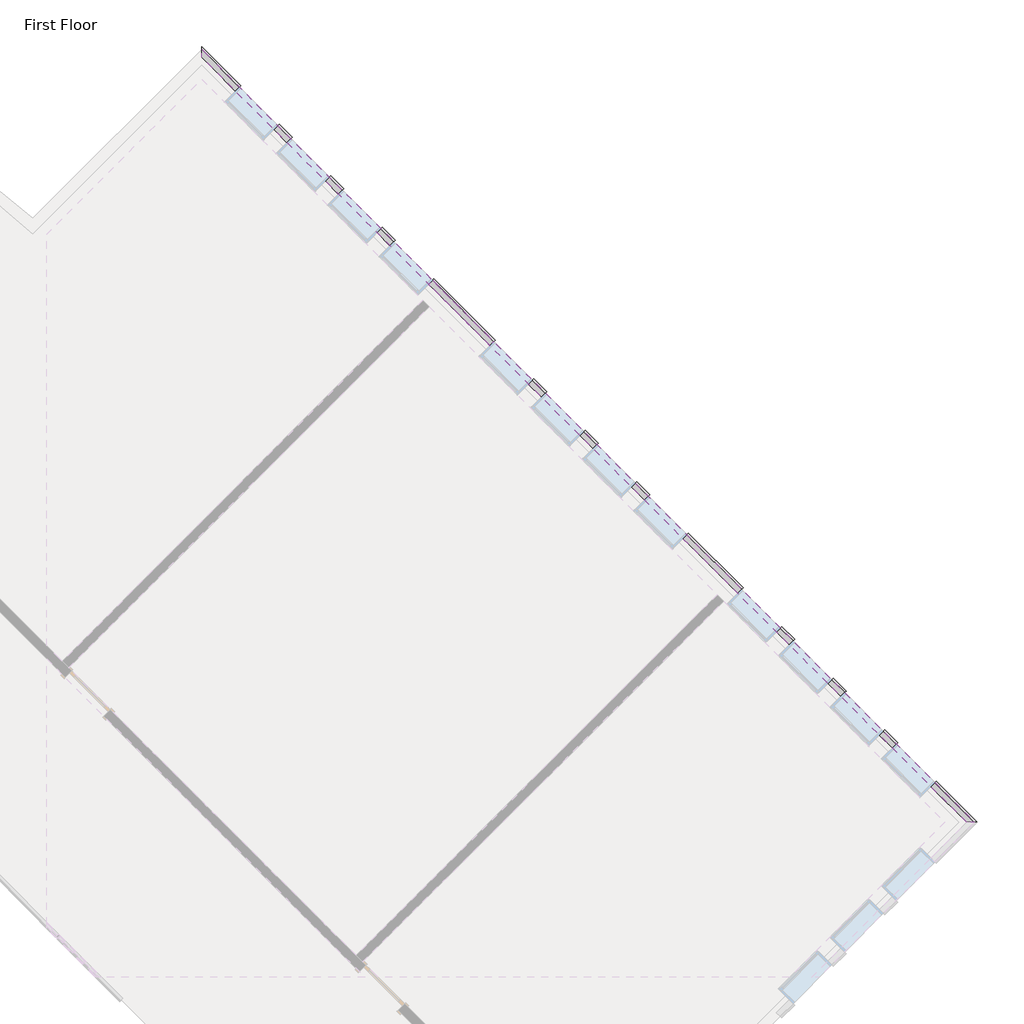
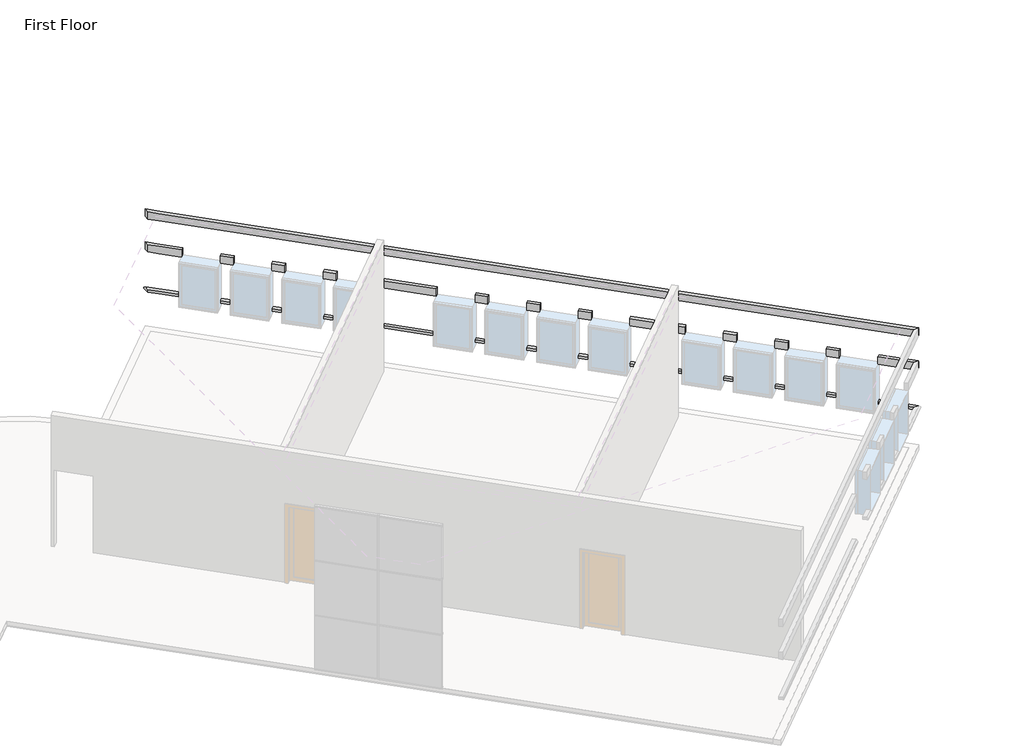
# One storey, part 7 of 7: 3 proxies.
"""IFC4 building model written with IfcOpenShell, lengths in millimetres."""

from ifc_helpers import new_model, si_unit, origin, place, context, project, spatial, faceted_brep, element, save

model = new_model("IFC4")

# Units and contexts
model_context = context("Model", 3, world=origin())
ifc_project = project(units=[si_unit("LENGTHUNIT", "METRE", prefix="MILLI")], contexts=[model_context])

# Site, building, storey
site = spatial("IfcSite", under=ifc_project)
building = spatial("IfcBuilding", under=site)
storey = spatial("IfcBuildingStorey", under=building, Name="First Floor", Elevation=0.0)

# Proxies
placement = place(None, origin())
element("IfcBuildingElementProxy", 1, Name="Wall Sweeps", at=placement, inside=storey, context=model_context, shape_type="Brep", body=[
    faceted_brep([(5753.0175119, 11443.3655905, 1085.85), (5753.0175119, 11573.5793042, 1085.85), (5753.0175119, 11622.9707129, 1041.4), (5753.0175119, 11622.9707129, 1016.0), (5753.0175119, 11443.3655905, 1016.0), (6317.415551, 10878.9675514, 1085.85), (6317.415551, 10878.9675514, 1016.0), (6382.5224079, 10944.0744083, 1016.0), (6407.2181122, 10968.7701126, 1016.0), (6407.2181122, 10968.7701126, 1041.4), (6382.5224079, 10944.0744083, 1085.85), (5937.1127624, 11259.27034, 1085.85), (5937.1127624, 11259.27034, 1016.0)], [[[0, 1, 2, 3, 4]], [[5, 6, 7, 8, 9, 10]], [[1, 0, 11, 5, 10]], [[2, 1, 10, 9]], [[3, 2, 9, 8]], [[4, 3, 8, 7, 6, 12]], [[0, 4, 12, 6, 5, 11]]]),
    faceted_brep([(6963.9939917, 10232.3891107, 1085.85), (7029.1008486, 10297.4959676, 1085.85), (7053.7965529, 10322.1916719, 1041.4), (7053.7965529, 10322.1916719, 1016.0), (7029.1008486, 10297.4959676, 1016.0), (6963.9939917, 10232.3891107, 1016.0), (7179.5201386, 10016.8629638, 1085.85), (7179.5201386, 10016.8629638, 1016.0), (7244.6269955, 10081.9698207, 1016.0), (7269.3226998, 10106.665525, 1016.0), (7269.3226998, 10106.665525, 1041.4), (7244.6269955, 10081.9698207, 1085.85)], [[[0, 1, 2, 3, 4, 5]], [[6, 7, 8, 9, 10, 11]], [[1, 0, 6, 11]], [[2, 1, 11, 10]], [[3, 2, 10, 9]], [[5, 4, 3, 9, 8, 7]], [[0, 5, 7, 6]]]),
    faceted_brep([(7826.0985793, 9370.2845231, 1085.85), (7891.2054362, 9435.39138, 1085.85), (7915.9011405, 9460.0870843, 1041.4), (7915.9011405, 9460.0870843, 1016.0), (7891.2054362, 9435.39138, 1016.0), (7826.0985793, 9370.2845231, 1016.0), (8041.6247262, 9154.7583762, 1085.85), (8041.6247262, 9154.7583762, 1016.0), (8106.7315831, 9219.8652331, 1016.0), (8131.4272874, 9244.5609374, 1016.0), (8131.4272874, 9244.5609374, 1041.4), (8106.7315831, 9219.8652331, 1085.85)], [[[0, 1, 2, 3, 4, 5]], [[6, 7, 8, 9, 10, 11]], [[1, 0, 6, 11]], [[2, 1, 11, 10]], [[3, 2, 10, 9]], [[5, 4, 3, 9, 8, 7]], [[0, 5, 7, 6]]]),
    faceted_brep([(8688.2031669, 8508.1799355, 1085.85), (8753.3100238, 8573.2867923, 1085.85), (8778.0057282, 8597.9824967, 1041.4), (8778.0057282, 8597.9824967, 1016.0), (8753.3100238, 8573.2867923, 1016.0), (8688.2031669, 8508.1799355, 1016.0), (8903.7293139, 8292.6537886, 1085.85), (8903.7293139, 8292.6537886, 1016.0), (8968.8361707, 8357.7606454, 1016.0), (8993.5318751, 8382.4563498, 1016.0), (8993.5318751, 8382.4563498, 1041.4), (8968.8361707, 8357.7606454, 1085.85)], [[[0, 1, 2, 3, 4, 5]], [[6, 7, 8, 9, 10, 11]], [[1, 0, 6, 11]], [[2, 1, 11, 10]], [[3, 2, 10, 9]], [[5, 4, 3, 9, 8, 7]], [[0, 5, 7, 6]]]),
    faceted_brep([(9550.3077546, 7646.0753478, 1085.85), (9615.4146114, 7711.1822047, 1085.85), (9640.1103158, 7735.877909, 1041.4), (9640.1103158, 7735.877909, 1016.0), (9615.4146114, 7711.1822047, 1016.0), (9550.3077546, 7646.0753478, 1016.0), (10574.7639411, 6621.6191613, 1085.85), (10574.7639411, 6621.6191613, 1016.0), (10639.870798, 6686.7260182, 1016.0), (10664.5665023, 6711.4217225, 1016.0), (10664.5665023, 6711.4217225, 1041.4), (10639.870798, 6686.7260182, 1085.85)], [[[0, 1, 2, 3, 4, 5]], [[6, 7, 8, 9, 10, 11]], [[1, 0, 6, 11]], [[2, 1, 11, 10]], [[3, 2, 10, 9]], [[5, 4, 3, 9, 8, 7]], [[0, 5, 7, 6]]]),
    faceted_brep([(11221.3423818, 5975.0407206, 1085.85), (11286.4492387, 6040.1475775, 1085.85), (11311.144943, 6064.8432818, 1041.4), (11311.144943, 6064.8432818, 1016.0), (11286.4492387, 6040.1475775, 1016.0), (11221.3423818, 5975.0407206, 1016.0), (11436.8685287, 5759.5145737, 1085.85), (11436.8685287, 5759.5145737, 1016.0), (11501.9753856, 5824.6214306, 1016.0), (11526.6710899, 5849.3171349, 1016.0), (11526.6710899, 5849.3171349, 1041.4), (11501.9753856, 5824.6214306, 1085.85)], [[[0, 1, 2, 3, 4, 5]], [[6, 7, 8, 9, 10, 11]], [[1, 0, 6, 11]], [[2, 1, 11, 10]], [[3, 2, 10, 9]], [[5, 4, 3, 9, 8, 7]], [[0, 5, 7, 6]]]),
    faceted_brep([(12083.4469694, 5112.936133, 1085.85), (12148.5538263, 5178.0429899, 1085.85), (12173.2495306, 5202.7386942, 1041.4), (12173.2495306, 5202.7386942, 1016.0), (12148.5538263, 5178.0429899, 1016.0), (12083.4469694, 5112.936133, 1016.0), (12298.9731163, 4897.4099861, 1085.85), (12298.9731163, 4897.4099861, 1016.0), (12364.0799732, 4962.516843, 1016.0), (12388.7756775, 4987.2125473, 1016.0), (12388.7756775, 4987.2125473, 1041.4), (12364.0799732, 4962.516843, 1085.85)], [[[0, 1, 2, 3, 4, 5]], [[6, 7, 8, 9, 10, 11]], [[1, 0, 6, 11]], [[2, 1, 11, 10]], [[3, 2, 10, 9]], [[5, 4, 3, 9, 8, 7]], [[0, 5, 7, 6]]]),
    faceted_brep([(12945.551557, 4250.8315454, 1085.85), (13010.6584139, 4315.9384023, 1085.85), (13035.3541182, 4340.6341066, 1041.4), (13035.3541182, 4340.6341066, 1016.0), (13010.6584139, 4315.9384023, 1016.0), (12945.551557, 4250.8315454, 1016.0), (13161.0777039, 4035.3053985, 1085.85), (13161.0777039, 4035.3053985, 1016.0), (13226.1845608, 4100.4122553, 1016.0), (13250.8802652, 4125.1079597, 1016.0), (13250.8802652, 4125.1079597, 1041.4), (13226.1845608, 4100.4122553, 1085.85)], [[[0, 1, 2, 3, 4, 5]], [[6, 7, 8, 9, 10, 11]], [[1, 0, 6, 11]], [[2, 1, 11, 10]], [[3, 2, 10, 9]], [[5, 4, 3, 9, 8, 7]], [[0, 5, 7, 6]]]),
    faceted_brep([(13807.6561447, 3388.7269578, 1085.85), (13872.7630015, 3453.8338146, 1085.85), (13897.4587059, 3478.529519, 1041.4), (13897.4587059, 3478.529519, 1016.0), (13872.7630015, 3453.8338146, 1016.0), (13807.6561447, 3388.7269578, 1016.0), (14723.1708449, 2473.2122576, 1085.85), (14723.1708449, 2473.2122576, 1016.0), (14788.2777017, 2538.3191144, 1016.0), (14812.9734061, 2563.0148188, 1016.0), (14812.9734061, 2563.0148188, 1041.4), (14788.2777017, 2538.3191144, 1085.85)], [[[0, 1, 2, 3, 4, 5]], [[6, 7, 8, 9, 10, 11]], [[1, 0, 6, 11]], [[2, 1, 11, 10]], [[3, 2, 10, 9]], [[5, 4, 3, 9, 8, 7]], [[0, 5, 7, 6]]]),
    faceted_brep([(15369.7492856, 1826.6338168, 1085.85), (15434.8561424, 1891.7406737, 1085.85), (15459.5518468, 1916.4363781, 1041.4), (15459.5518468, 1916.4363781, 1016.0), (15434.8561424, 1891.7406737, 1016.0), (15369.7492856, 1826.6338168, 1016.0), (15585.2754325, 1611.1076699, 1085.85), (15585.2754325, 1611.1076699, 1016.0), (15650.3822894, 1676.2145268, 1016.0), (15675.0779937, 1700.9102311, 1016.0), (15675.0779937, 1700.9102311, 1041.4), (15650.3822894, 1676.2145268, 1085.85)], [[[0, 1, 2, 3, 4, 5]], [[6, 7, 8, 9, 10, 11]], [[1, 0, 6, 11]], [[2, 1, 11, 10]], [[3, 2, 10, 9]], [[5, 4, 3, 9, 8, 7]], [[0, 5, 7, 6]]]),
    faceted_brep([(16231.8538732, 964.5292292, 1085.85), (16296.9607301, 1029.6360861, 1085.85), (16321.6564344, 1054.3317904, 1041.4), (16321.6564344, 1054.3317904, 1016.0), (16296.9607301, 1029.6360861, 1016.0), (16231.8538732, 964.5292292, 1016.0), (16447.3800201, 749.0030823, 1085.85), (16447.3800201, 749.0030823, 1016.0), (16512.486877, 814.1099392, 1016.0), (16537.1825813, 838.8056435, 1016.0), (16537.1825813, 838.8056435, 1041.4), (16512.486877, 814.1099392, 1085.85)], [[[0, 1, 2, 3, 4, 5]], [[6, 7, 8, 9, 10, 11]], [[1, 0, 6, 11]], [[2, 1, 11, 10]], [[3, 2, 10, 9]], [[5, 4, 3, 9, 8, 7]], [[0, 5, 7, 6]]]),
    faceted_brep([(17093.9584608, 102.4246416, 1085.85), (17159.0653177, 167.5314985, 1085.85), (17183.761022, 192.2272028, 1041.4), (17183.761022, 192.2272028, 1016.0), (17159.0653177, 167.5314985, 1016.0), (17093.9584608, 102.4246416, 1016.0), (17309.4846077, -113.1015053, 1085.85), (17309.4846077, -113.1015053, 1016.0), (17374.5914646, -47.9946484, 1016.0), (17399.2871689, -23.2989441, 1016.0), (17399.2871689, -23.2989441, 1041.4), (17374.5914646, -47.9946484, 1085.85)], [[[0, 1, 2, 3, 4, 5]], [[6, 7, 8, 9, 10, 11]], [[1, 0, 6, 11]], [[2, 1, 11, 10]], [[3, 2, 10, 9]], [[5, 4, 3, 9, 8, 7]], [[0, 5, 7, 6]]]),
    faceted_brep([(17956.0630484, -759.679946, 1085.85), (18021.1699053, -694.5730891, 1085.85), (18045.8656096, -669.8773848, 1041.4), (18045.8656096, -669.8773848, 1016.0), (18021.1699053, -694.5730891, 1016.0), (17956.0630484, -759.679946, 1016.0), (18554.3726125, -1357.9895101, 1085.85), (18554.3726125, -1357.9895101, 1016.0), (18733.9777349, -1357.9895101, 1016.0), (18733.9777349, -1357.9895101, 1041.4), (18684.5863263, -1357.9895101, 1085.85)], [[[0, 1, 2, 3, 4, 5]], [[6, 7, 8, 9, 10]], [[1, 0, 6, 10]], [[2, 1, 10, 9]], [[3, 2, 9, 8]], [[5, 4, 3, 8, 7]], [[0, 5, 7, 6]]]),
])
element("IfcBuildingElementProxy", 2, Name="Wall Sweeps", at=placement, inside=storey, context=model_context, shape_type="Brep", body=[
    faceted_brep([(5753.0175119, 11573.5793042, 2336.8), (5753.0175119, 11573.5793042, 2133.6), (5753.0175119, 11443.3655905, 2133.6), (5753.0175119, 11443.3655905, 2336.8), (6382.5224079, 10944.0744083, 2336.8), (6317.415551, 10878.9675514, 2336.8), (6317.415551, 10878.9675514, 2133.6), (6382.5224079, 10944.0744083, 2133.6), (6002.2196193, 11324.3771969, 2336.8), (6002.2196193, 11324.3771969, 2133.6), (5937.1127624, 11259.27034, 2133.6), (5937.1127624, 11259.27034, 2336.8)], [[[0, 1, 2, 3]], [[4, 5, 6, 7]], [[1, 0, 8, 4, 7, 9]], [[2, 1, 9, 7, 6, 10]], [[3, 2, 10, 6, 5, 11]], [[0, 3, 11, 5, 4, 8]]]),
    faceted_brep([(7029.1008486, 10297.4959676, 2336.8), (7029.1008486, 10297.4959676, 2133.6), (6963.9939917, 10232.3891107, 2133.6), (6963.9939917, 10232.3891107, 2336.8), (7244.6269955, 10081.9698207, 2336.8), (7179.5201386, 10016.8629638, 2336.8), (7179.5201386, 10016.8629638, 2133.6), (7244.6269955, 10081.9698207, 2133.6)], [[[0, 1, 2, 3]], [[4, 5, 6, 7]], [[1, 0, 4, 7]], [[2, 1, 7, 6]], [[3, 2, 6, 5]], [[0, 3, 5, 4]]]),
    faceted_brep([(7891.2054362, 9435.39138, 2336.8), (7891.2054362, 9435.39138, 2133.6), (7826.0985793, 9370.2845231, 2133.6), (7826.0985793, 9370.2845231, 2336.8), (8106.7315831, 9219.8652331, 2336.8), (8041.6247262, 9154.7583762, 2336.8), (8041.6247262, 9154.7583762, 2133.6), (8106.7315831, 9219.8652331, 2133.6)], [[[0, 1, 2, 3]], [[4, 5, 6, 7]], [[1, 0, 4, 7]], [[2, 1, 7, 6]], [[3, 2, 6, 5]], [[0, 3, 5, 4]]]),
    faceted_brep([(8753.3100238, 8573.2867923, 2336.8), (8753.3100238, 8573.2867923, 2133.6), (8688.2031669, 8508.1799355, 2133.6), (8688.2031669, 8508.1799355, 2336.8), (8968.8361707, 8357.7606454, 2336.8), (8903.7293139, 8292.6537886, 2336.8), (8903.7293139, 8292.6537886, 2133.6), (8968.8361707, 8357.7606454, 2133.6)], [[[0, 1, 2, 3]], [[4, 5, 6, 7]], [[1, 0, 4, 7]], [[2, 1, 7, 6]], [[3, 2, 6, 5]], [[0, 3, 5, 4]]]),
    faceted_brep([(9615.4146114, 7711.1822047, 2336.8), (9615.4146114, 7711.1822047, 2133.6), (9550.3077546, 7646.0753478, 2133.6), (9550.3077546, 7646.0753478, 2336.8), (10639.870798, 6686.7260182, 2336.8), (10574.7639411, 6621.6191613, 2336.8), (10574.7639411, 6621.6191613, 2133.6), (10639.870798, 6686.7260182, 2133.6)], [[[0, 1, 2, 3]], [[4, 5, 6, 7]], [[1, 0, 4, 7]], [[2, 1, 7, 6]], [[3, 2, 6, 5]], [[0, 3, 5, 4]]]),
    faceted_brep([(11286.4492387, 6040.1475775, 2336.8), (11286.4492387, 6040.1475775, 2133.6), (11221.3423818, 5975.0407206, 2133.6), (11221.3423818, 5975.0407206, 2336.8), (11501.9753856, 5824.6214306, 2336.8), (11436.8685287, 5759.5145737, 2336.8), (11436.8685287, 5759.5145737, 2133.6), (11501.9753856, 5824.6214306, 2133.6)], [[[0, 1, 2, 3]], [[4, 5, 6, 7]], [[1, 0, 4, 7]], [[2, 1, 7, 6]], [[3, 2, 6, 5]], [[0, 3, 5, 4]]]),
    faceted_brep([(12148.5538263, 5178.0429899, 2336.8), (12148.5538263, 5178.0429899, 2133.6), (12083.4469694, 5112.936133, 2133.6), (12083.4469694, 5112.936133, 2336.8), (12364.0799732, 4962.516843, 2336.8), (12298.9731163, 4897.4099861, 2336.8), (12298.9731163, 4897.4099861, 2133.6), (12364.0799732, 4962.516843, 2133.6)], [[[0, 1, 2, 3]], [[4, 5, 6, 7]], [[1, 0, 4, 7]], [[2, 1, 7, 6]], [[3, 2, 6, 5]], [[0, 3, 5, 4]]]),
    faceted_brep([(13010.6584139, 4315.9384023, 2336.8), (13010.6584139, 4315.9384023, 2133.6), (12945.551557, 4250.8315454, 2133.6), (12945.551557, 4250.8315454, 2336.8), (13226.1845608, 4100.4122553, 2336.8), (13161.0777039, 4035.3053985, 2336.8), (13161.0777039, 4035.3053985, 2133.6), (13226.1845608, 4100.4122553, 2133.6)], [[[0, 1, 2, 3]], [[4, 5, 6, 7]], [[1, 0, 4, 7]], [[2, 1, 7, 6]], [[3, 2, 6, 5]], [[0, 3, 5, 4]]]),
    faceted_brep([(13872.7630015, 3453.8338146, 2336.8), (13872.7630015, 3453.8338146, 2133.6), (13807.6561447, 3388.7269578, 2133.6), (13807.6561447, 3388.7269578, 2336.8), (14788.2777017, 2538.3191144, 2336.8), (14723.1708449, 2473.2122576, 2336.8), (14723.1708449, 2473.2122576, 2133.6), (14788.2777017, 2538.3191144, 2133.6)], [[[0, 1, 2, 3]], [[4, 5, 6, 7]], [[1, 0, 4, 7]], [[2, 1, 7, 6]], [[3, 2, 6, 5]], [[0, 3, 5, 4]]]),
    faceted_brep([(15434.8561424, 1891.7406737, 2336.8), (15434.8561424, 1891.7406737, 2133.6), (15369.7492856, 1826.6338168, 2133.6), (15369.7492856, 1826.6338168, 2336.8), (15650.3822894, 1676.2145268, 2336.8), (15585.2754325, 1611.1076699, 2336.8), (15585.2754325, 1611.1076699, 2133.6), (15650.3822894, 1676.2145268, 2133.6)], [[[0, 1, 2, 3]], [[4, 5, 6, 7]], [[1, 0, 4, 7]], [[2, 1, 7, 6]], [[3, 2, 6, 5]], [[0, 3, 5, 4]]]),
    faceted_brep([(16296.9607301, 1029.6360861, 2336.8), (16296.9607301, 1029.6360861, 2133.6), (16231.8538732, 964.5292292, 2133.6), (16231.8538732, 964.5292292, 2336.8), (16512.486877, 814.1099392, 2336.8), (16447.3800201, 749.0030823, 2336.8), (16447.3800201, 749.0030823, 2133.6), (16512.486877, 814.1099392, 2133.6)], [[[0, 1, 2, 3]], [[4, 5, 6, 7]], [[1, 0, 4, 7]], [[2, 1, 7, 6]], [[3, 2, 6, 5]], [[0, 3, 5, 4]]]),
    faceted_brep([(17159.0653177, 167.5314985, 2336.8), (17159.0653177, 167.5314985, 2133.6), (17093.9584608, 102.4246416, 2133.6), (17093.9584608, 102.4246416, 2336.8), (17374.5914646, -47.9946484, 2336.8), (17309.4846077, -113.1015053, 2336.8), (17309.4846077, -113.1015053, 2133.6), (17374.5914646, -47.9946484, 2133.6)], [[[0, 1, 2, 3]], [[4, 5, 6, 7]], [[1, 0, 4, 7]], [[2, 1, 7, 6]], [[3, 2, 6, 5]], [[0, 3, 5, 4]]]),
    faceted_brep([(18021.1699053, -694.5730891, 2336.8), (18021.1699053, -694.5730891, 2133.6), (17956.0630484, -759.679946, 2133.6), (17956.0630484, -759.679946, 2336.8), (18684.5863263, -1357.9895101, 2336.8), (18554.3726125, -1357.9895101, 2336.8), (18554.3726125, -1357.9895101, 2133.6), (18684.5863263, -1357.9895101, 2133.6)], [[[0, 1, 2, 3]], [[4, 5, 6, 7]], [[1, 0, 4, 7]], [[2, 1, 7, 6]], [[3, 2, 6, 5]], [[0, 3, 5, 4]]]),
])
element("IfcBuildingElementProxy", 3, Name="Wall Sweeps", at=placement, inside=storey, context=model_context, shape_type="Brep", body=[
    faceted_brep([(5753.0175119, 11573.5793042, 3251.2), (5753.0175119, 11573.5793042, 3048.0), (5753.0175119, 11443.3655905, 3048.0), (5753.0175119, 11443.3655905, 3251.2), (18684.5863263, -1357.9895101, 3251.2), (18554.3726125, -1357.9895101, 3251.2), (18554.3726125, -1357.9895101, 3048.0), (18684.5863263, -1357.9895101, 3048.0), (6002.2196193, 11324.3771969, 3251.2), (6002.2196193, 11324.3771969, 3048.0), (5937.1127624, 11259.27034, 3048.0), (5937.1127624, 11259.27034, 3251.2)], [[[0, 1, 2, 3]], [[4, 5, 6, 7]], [[1, 0, 8, 4, 7, 9]], [[2, 1, 9, 7, 6, 10]], [[3, 2, 10, 6, 5, 11]], [[0, 3, 11, 5, 4, 8]]]),
])

save(model, "model.ifc")
